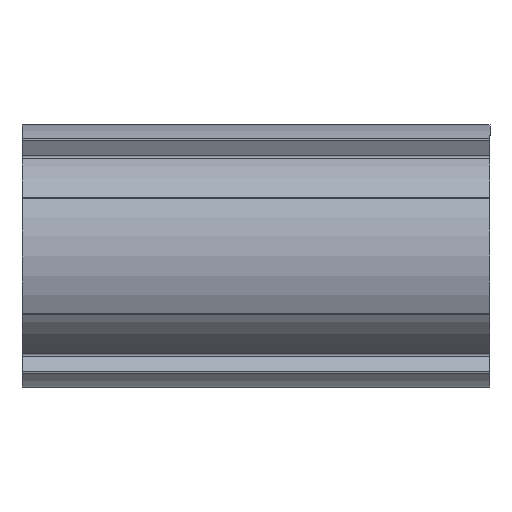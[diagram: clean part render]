
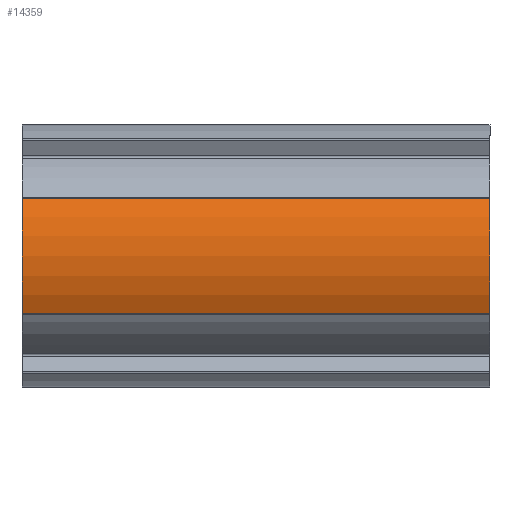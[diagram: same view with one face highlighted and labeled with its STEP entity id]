
A CAD part, front view. The second image highlights one B-rep face of the part: STEP entity #14359.
In plain terms, the highlighted cylindrical face has radius 14 mm (diameter 28 mm), a partial arc.
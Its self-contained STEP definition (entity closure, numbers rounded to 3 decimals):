
#465 = CYLINDRICAL_SURFACE ( 'NONE', #15579, 14. ) ;
#469 = LINE ( 'NONE', #14506, #3562 ) ;
#707 = ORIENTED_EDGE ( 'NONE', *, *, #23251, .T. ) ;
#945 = DIRECTION ( 'NONE',  ( 1., 0., 0. ) ) ;
#1064 = DIRECTION ( 'NONE',  ( 0., 0., -1. ) ) ;
#1110 = CARTESIAN_POINT ( 'NONE',  ( 6.174, -12.565, -50. ) ) ;
#1780 = LINE ( 'NONE', #22178, #21489 ) ;
#2102 = VERTEX_POINT ( 'NONE', #1110 ) ;
#2131 = CARTESIAN_POINT ( 'NONE',  ( 0., 0., -100. ) ) ;
#2439 = EDGE_CURVE ( 'NONE', #12267, #8879, #9340, .T. ) ;
#3407 = ORIENTED_EDGE ( 'NONE', *, *, #13705, .F. ) ;
#3562 = VECTOR ( 'NONE', #21818, 1000. ) ;
#3937 = DIRECTION ( 'NONE',  ( 0., 0., 1. ) ) ;
#3958 = ORIENTED_EDGE ( 'NONE', *, *, #2439, .T. ) ;
#4161 = AXIS2_PLACEMENT_3D ( 'NONE', #4996, #1064, #945 ) ;
#4996 = CARTESIAN_POINT ( 'NONE',  ( 0., 0., -50. ) ) ;
#5172 = CARTESIAN_POINT ( 'NONE',  ( -6.174, -12.565, 0. ) ) ;
#7627 = DIRECTION ( 'NONE',  ( 0., 0., 1. ) ) ;
#8879 = VERTEX_POINT ( 'NONE', #5172 ) ;
#9340 = CIRCLE ( 'NONE', #21615, 14. ) ;
#9561 = FACE_OUTER_BOUND ( 'NONE', #23023, .T. ) ;
#9700 = CARTESIAN_POINT ( 'NONE',  ( -6.174, -12.565, -50. ) ) ;
#10719 = VERTEX_POINT ( 'NONE', #9700 ) ;
#12267 = VERTEX_POINT ( 'NONE', #12499 ) ;
#12499 = CARTESIAN_POINT ( 'NONE',  ( 6.174, -12.565, 0. ) ) ;
#13705 = EDGE_CURVE ( 'NONE', #2102, #10719, #21048, .T. ) ;
#13901 = ORIENTED_EDGE ( 'NONE', *, *, #20046, .F. ) ;
#14359 = ADVANCED_FACE ( 'NONE', ( #9561 ), #465, .T. ) ;
#14506 = CARTESIAN_POINT ( 'NONE',  ( 6.174, -12.565, -100. ) ) ;
#15579 = AXIS2_PLACEMENT_3D ( 'NONE', #2131, #7627, #20250 ) ;
#16065 = CARTESIAN_POINT ( 'NONE',  ( 0., 0., 0. ) ) ;
#17402 = DIRECTION ( 'NONE',  ( 1., 0., 0. ) ) ;
#20046 = EDGE_CURVE ( 'NONE', #10719, #8879, #1780, .T. ) ;
#20250 = DIRECTION ( 'NONE',  ( 1., 0., 0. ) ) ;
#21048 = CIRCLE ( 'NONE', #4161, 14. ) ;
#21112 = DIRECTION ( 'NONE',  ( 0., 0., -1. ) ) ;
#21489 = VECTOR ( 'NONE', #3937, 1000. ) ;
#21615 = AXIS2_PLACEMENT_3D ( 'NONE', #16065, #21112, #17402 ) ;
#21818 = DIRECTION ( 'NONE',  ( 0., 0., 1. ) ) ;
#22178 = CARTESIAN_POINT ( 'NONE',  ( -6.174, -12.565, -100. ) ) ;
#23023 = EDGE_LOOP ( 'NONE', ( #13901, #3407, #707, #3958 ) ) ;
#23251 = EDGE_CURVE ( 'NONE', #2102, #12267, #469, .T. ) ;
